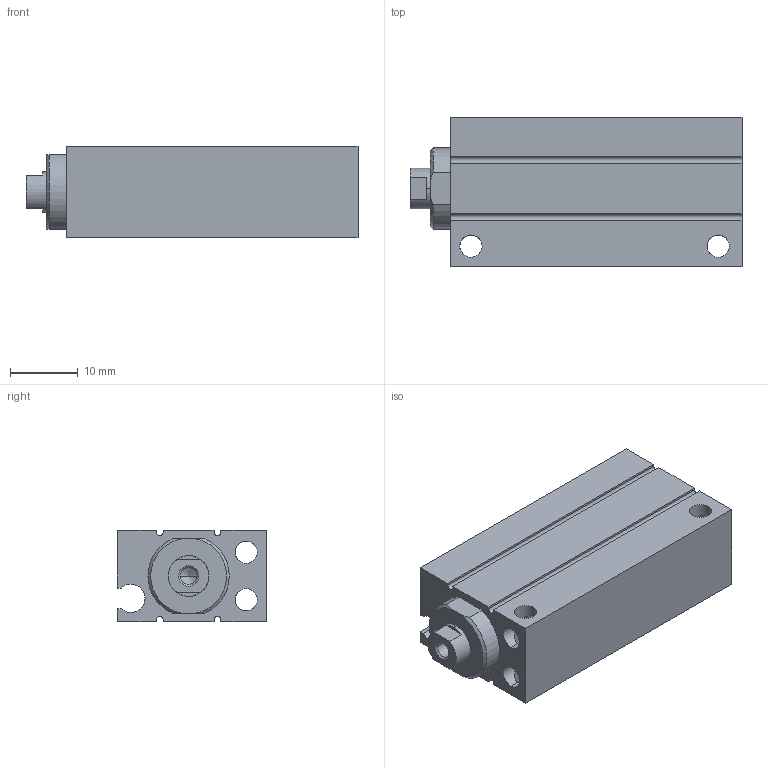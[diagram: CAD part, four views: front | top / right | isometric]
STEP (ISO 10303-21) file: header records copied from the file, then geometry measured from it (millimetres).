
FILE_DESCRIPTION (( 'STEP AP203' ), '1' );
FILE_NAME ('CLJB10-30.STEP', '2020-07-30T18:48:52', ( '' ), ( '' ), 'SwSTEP 2.0', 'SolidWorks 2019', '' );
FILE_SCHEMA (( 'CONFIG_CONTROL_DESIGN' ));
Length unit declared in the file: millimetre
Products named in the file (1): CLJB10-30
Bounding box: 49 x 22 x 13.5 mm (x, y, z)
Volume: 10016.2 mm3; surface area: 7457.3 mm2
Topology: 2 solids, 2 shells, 96 faces, 252 edges, 153 vertices
Faces by surface type: cylinder 49, plane 33, cone 14
Entity records: 2995 total; most frequent: CARTESIAN_POINT 604, ORIENTED_EDGE 492, DIRECTION 482, EDGE_CURVE 246, AXIS2_PLACEMENT_3D 175, VERTEX_POINT 153, VECTOR 132, LINE 132
